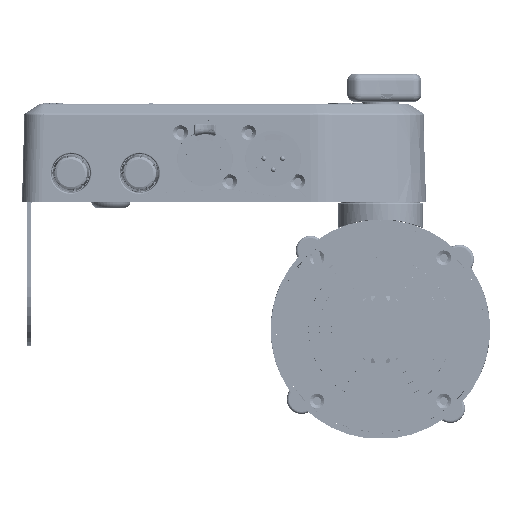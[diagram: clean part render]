
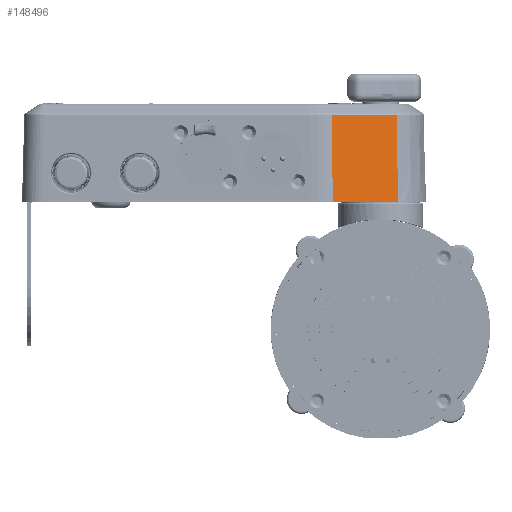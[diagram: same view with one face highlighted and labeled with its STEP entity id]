
A CAD part, left-side view. The second image highlights one B-rep face of the part: STEP entity #148496.
In plain terms, the highlighted planar face has unit normal (-0.869, -0.494, 0.026) as drawn and (0.494, -0.869, 0.026) by its records, which use the part's own axes.
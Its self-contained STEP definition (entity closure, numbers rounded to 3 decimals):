
#4090 = ORIENTED_EDGE ( 'NONE', *, *, #103910, .T. ) ;
#9991 = DIRECTION ( 'NONE',  ( 0.013, -0.023, -1. ) ) ;
#19505 = CARTESIAN_POINT ( 'NONE',  ( 45.745, -35.146, 0. ) ) ;
#21054 = CARTESIAN_POINT ( 'NONE',  ( 71.909, -19.193, 35.478 ) ) ;
#21561 = VECTOR ( 'NONE', #157702, 1000. ) ;
#22789 = EDGE_CURVE ( 'NONE', #28247, #97634, #47647, .T. ) ;
#28247 = VERTEX_POINT ( 'NONE', #19505 ) ;
#28319 = CARTESIAN_POINT ( 'NONE',  ( 45.499, -34.217, 35.478 ) ) ;
#29429 = DIRECTION ( 'NONE',  ( -0.053, 0., 0.999 ) ) ;
#35945 = LINE ( 'NONE', #137966, #120112 ) ;
#43667 = FACE_OUTER_BOUND ( 'NONE', #139834, .T. ) ;
#44098 = LINE ( 'NONE', #109322, #114990 ) ;
#47647 = LINE ( 'NONE', #85270, #98164 ) ;
#52247 = EDGE_CURVE ( 'NONE', #66417, #130343, #35945, .T. ) ;
#56216 = PLANE ( 'NONE',  #81247 ) ;
#59899 = DIRECTION ( 'NONE',  ( -0.869, -0.494, 0. ) ) ;
#60494 = EDGE_CURVE ( 'NONE', #130343, #28247, #121726, .T. ) ;
#65195 = ORIENTED_EDGE ( 'NONE', *, *, #22789, .F. ) ;
#66417 = VERTEX_POINT ( 'NONE', #21054 ) ;
#72549 = ORIENTED_EDGE ( 'NONE', *, *, #52247, .F. ) ;
#81247 = AXIS2_PLACEMENT_3D ( 'NONE', #94699, #144842, #29429 ) ;
#85270 = CARTESIAN_POINT ( 'NONE',  ( 45.743, -35.14, 0.241 ) ) ;
#94699 = CARTESIAN_POINT ( 'NONE',  ( 27.798, -45.356, 0. ) ) ;
#97634 = VERTEX_POINT ( 'NONE', #28319 ) ;
#98164 = VECTOR ( 'NONE', #126260, 1000. ) ;
#103910 = EDGE_CURVE ( 'NONE', #66417, #97634, #44098, .T. ) ;
#109322 = CARTESIAN_POINT ( 'NONE',  ( 27.339, -44.549, 35.478 ) ) ;
#114990 = VECTOR ( 'NONE', #59899, 1000. ) ;
#120112 = VECTOR ( 'NONE', #9991, 1000. ) ;
#120918 = CARTESIAN_POINT ( 'NONE',  ( -66.71, -99.122, 0. ) ) ;
#121726 = LINE ( 'NONE', #120918, #21561 ) ;
#126260 = DIRECTION ( 'NONE',  ( -0.007, 0.026, 1. ) ) ;
#130343 = VERTEX_POINT ( 'NONE', #151605 ) ;
#137966 = CARTESIAN_POINT ( 'NONE',  ( 72.368, -20., 0. ) ) ;
#139834 = EDGE_LOOP ( 'NONE', ( #72549, #4090, #65195, #155760 ) ) ;
#144842 = DIRECTION ( 'NONE',  ( -0.494, 0.869, -0.026 ) ) ;
#148496 = ADVANCED_FACE ( 'NONE', ( #43667 ), #56216, .F. ) ;
#151605 = CARTESIAN_POINT ( 'NONE',  ( 72.368, -20., 0. ) ) ;
#155760 = ORIENTED_EDGE ( 'NONE', *, *, #60494, .F. ) ;
#157702 = DIRECTION ( 'NONE',  ( -0.869, -0.494, 0. ) ) ;
